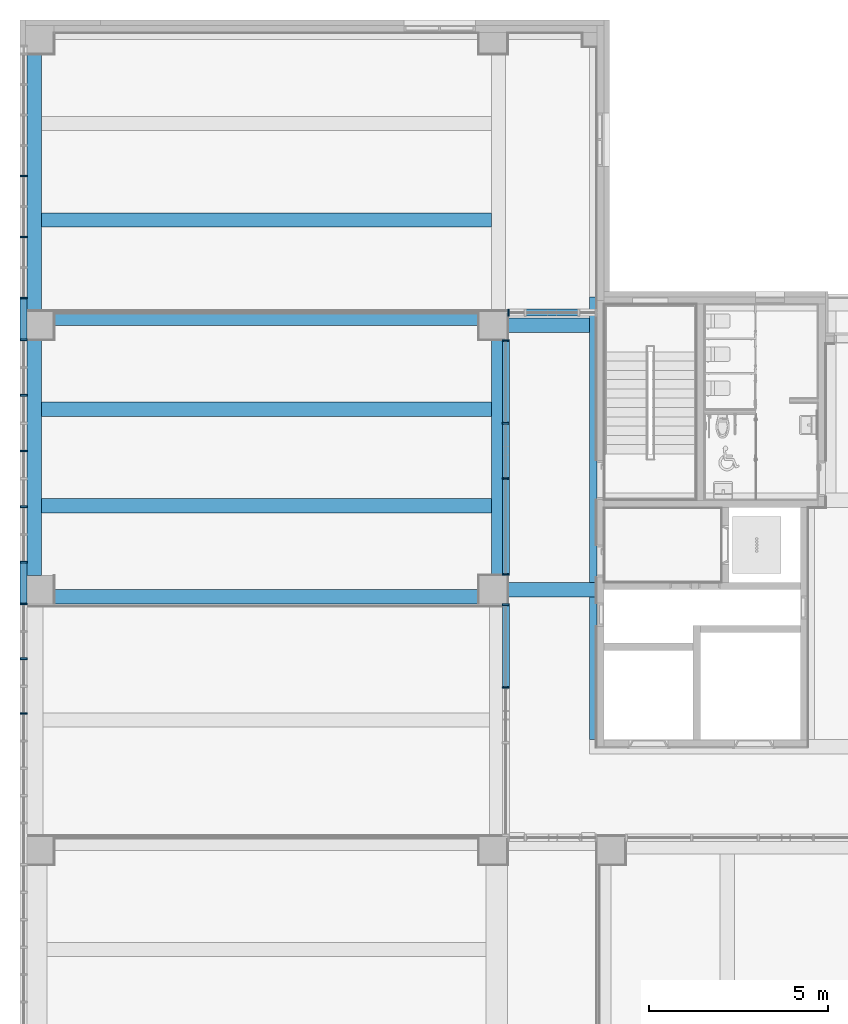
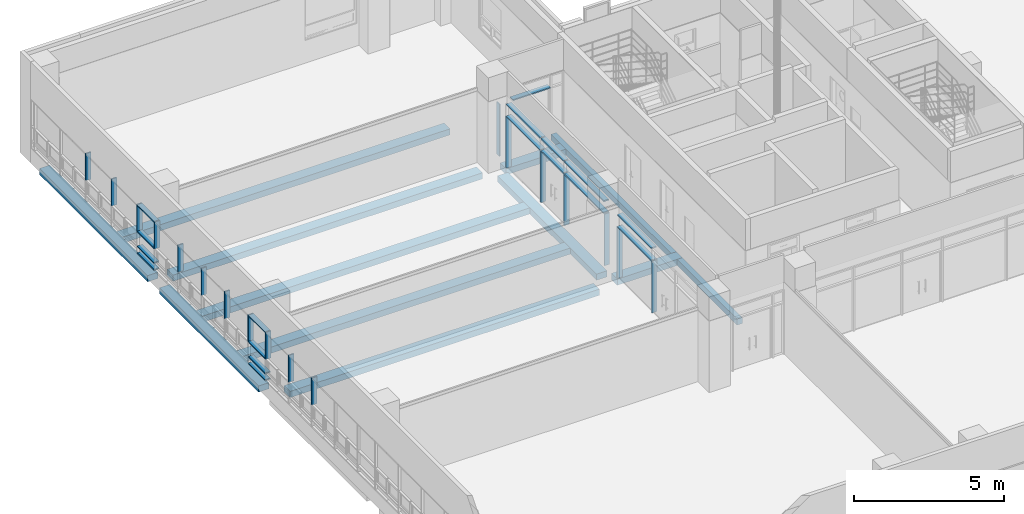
# One storey, part 5 of 82: 35 members, 12 beams, 4 elements without a shape of their own.
"""IFC2X3 building model written with IfcOpenShell, lengths in millimetres."""

from ifc_helpers import new_model, entity, si_unit, converted_unit, derived_unit, direction, frame, frame_2d, origin, origin_2d_with_axis, place, context, subcontext, project, spatial, rectangle, extrude, source, transform, mapped, material, material_list, type_object, type_shapes, element, aggregate, save


model = new_model("IFC2X3")

# Units and contexts
model_context = context("Model", 3, precision=0.01, world=origin(), true_north=direction((6.123031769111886e-17, 1.0)))
body_context = subcontext(model_context, "Body", "Model", "MODEL_VIEW")
ifc_project = project(units=[si_unit("LENGTHUNIT", "METRE", prefix="MILLI"), si_unit("AREAUNIT", "SQUARE_METRE"), si_unit("VOLUMEUNIT", "CUBIC_METRE"), converted_unit("PLANEANGLEUNIT", "DEGREE", entity("IfcRatioMeasure", 0.017453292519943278), si_unit("PLANEANGLEUNIT", "RADIAN"), dimensions=[0, 0, 0, 0, 0, 0, 0]), si_unit("MASSUNIT", "GRAM", prefix="KILO"), derived_unit("MASSDENSITYUNIT", [(si_unit("MASSUNIT", "GRAM", prefix="KILO"), 1), (si_unit("LENGTHUNIT", "METRE"), -3)]), derived_unit("MOMENTOFINERTIAUNIT", [(si_unit("LENGTHUNIT", "METRE"), 4)]), si_unit("TIMEUNIT", "SECOND"), si_unit("FREQUENCYUNIT", "HERTZ"), si_unit("THERMODYNAMICTEMPERATUREUNIT", "DEGREE_CELSIUS"), derived_unit("THERMALTRANSMITTANCEUNIT", [(si_unit("MASSUNIT", "GRAM", prefix="KILO"), 1), (si_unit("THERMODYNAMICTEMPERATUREUNIT", "KELVIN"), -1), (si_unit("TIMEUNIT", "SECOND"), -3)]), derived_unit("VOLUMETRICFLOWRATEUNIT", [(si_unit("LENGTHUNIT", "METRE"), 3), (si_unit("TIMEUNIT", "SECOND"), -1)]), derived_unit("MASSFLOWRATEUNIT", [(si_unit("MASSUNIT", "GRAM", prefix="KILO"), 1), (si_unit("TIMEUNIT", "SECOND"), -1)]), derived_unit("ROTATIONALFREQUENCYUNIT", [(si_unit("TIMEUNIT", "SECOND"), -1)]), si_unit("ELECTRICCURRENTUNIT", "AMPERE"), si_unit("ELECTRICVOLTAGEUNIT", "VOLT"), si_unit("POWERUNIT", "WATT"), si_unit("FORCEUNIT", "NEWTON", prefix="KILO"), si_unit("ILLUMINANCEUNIT", "LUX"), si_unit("LUMINOUSFLUXUNIT", "LUMEN"), si_unit("LUMINOUSINTENSITYUNIT", "CANDELA"), derived_unit("USERDEFINED", [(si_unit("MASSUNIT", "GRAM", prefix="KILO"), -1), (si_unit("LENGTHUNIT", "METRE"), -2), (si_unit("TIMEUNIT", "SECOND"), 3), (si_unit("LUMINOUSFLUXUNIT", "LUMEN"), 1)]), derived_unit("SOUNDPOWERUNIT", [(si_unit("MASSUNIT", "GRAM", prefix="KILO"), 1), (si_unit("LENGTHUNIT", "METRE"), 2), (si_unit("TIMEUNIT", "SECOND"), -3)]), derived_unit("SOUNDPRESSUREUNIT", [(si_unit("MASSUNIT", "GRAM", prefix="KILO"), 1), (si_unit("LENGTHUNIT", "METRE"), -1), (si_unit("TIMEUNIT", "SECOND"), -2)]), derived_unit("LINEARVELOCITYUNIT", [(si_unit("LENGTHUNIT", "METRE"), 1), (si_unit("TIMEUNIT", "SECOND"), -1)]), si_unit("PRESSUREUNIT", "PASCAL"), derived_unit("USERDEFINED", [(si_unit("LENGTHUNIT", "METRE"), -2), (si_unit("MASSUNIT", "GRAM", prefix="KILO"), 1), (si_unit("TIMEUNIT", "SECOND"), -2)]), derived_unit("LINEARFORCEUNIT", [(si_unit("MASSUNIT", "GRAM", prefix="KILO"), 1), (si_unit("LENGTHUNIT", "METRE"), 1), (si_unit("TIMEUNIT", "SECOND"), -2), (si_unit("LENGTHUNIT", "METRE"), -1)]), derived_unit("PLANARFORCEUNIT", [(si_unit("MASSUNIT", "GRAM", prefix="KILO"), 1), (si_unit("LENGTHUNIT", "METRE"), 1), (si_unit("TIMEUNIT", "SECOND"), -2), (si_unit("LENGTHUNIT", "METRE"), -2)])], contexts=[model_context])

# Site, building, storey
site_placement = place(None, frame((-14167.972527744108, -657.2125860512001, 0.0)))
site = spatial("IfcSite", under=ifc_project, at=site_placement, Name="Default", CompositionType="ELEMENT")
building_placement = place(site_placement, origin())
building = spatial("IfcBuilding", under=site, at=building_placement, Name="Sample Building", CompositionType="ELEMENT")
storey_placement = place(building_placement, frame((0.0, 0.0, 17500.0)))
storey = spatial("IfcBuildingStorey", under=building, at=storey_placement, Name="지상 5층", CompositionType="ELEMENT", Elevation=17500.00000000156)

# Curtain wall, member
curtain_wall_type = type_object("IfcCurtainWallType", Name="커튼월:CW112-스테인리스 스틸 커튼월", PredefinedType="NOTDEFINED")
curtain_wall_1_placement = place(storey_placement, frame((0.0, 0.0, -17500.0)))
curtain_wall_1 = element("IfcCurtainWall", 1, at=curtain_wall_1_placement, inside=storey, type_object=curtain_wall_type, Name="커튼월:CW112-스테인리스 스틸 커튼월", ObjectType="커튼월:CW112-스테인리스 스틸 커튼월")
ifc_material_1 = material(Name="<Unnamed>")
member_type_1 = type_object("IfcMemberType", Name="직사각형 멀리언:CW200-직사각형 멀리언 50x200mm", PredefinedType="MULLION", material=ifc_material_1)
shared_shape_1 = source(origin(), body_context, "Body", "SweptSolid", [
    extrude(rectangle(XDim=200.0, YDim=50.0, at=origin_2d_with_axis()), frame((-25.0, 0.0, -2100.0), z_axis=(0.0, 0.0, 1.0), x_axis=(0.0, -1.0, 0.0)), (0.0, 0.0, 1.0), 2100.0),
])
type_shapes(member_type_1, [shared_shape_1])
member_1_placement = place(curtain_wall_1_placement, frame((27567.96376153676, 27712.21230799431, 17580.0), z_axis=(0.0, 0.0, -1.0), x_axis=(-1.0, 0.0, 0.0)))
member_1 = element("IfcMember", 2, at=member_1_placement, type_object=member_type_1, material=ifc_material_1, Name="직사각형 멀리언:CW200-직사각형 멀리언 50x200mm", ObjectType="직사각형 멀리언:CW200-직사각형 멀리언 50x200mm", context=body_context, shape_type="MappedRepresentation", body=[
    mapped(shared_shape_1, transform((0.0, 0.0, 0.0), scale=1.0)),
])

curtain_wall_2_placement = place(storey_placement, frame((0.0, 0.0, -17500.0)))
curtain_wall_2 = element("IfcCurtainWall", 3, at=curtain_wall_2_placement, inside=storey, type_object=curtain_wall_type, Name="커튼월:CW112-스테인리스 스틸 커튼월", ObjectType="커튼월:CW112-스테인리스 스틸 커튼월")
member_2_placement = place(curtain_wall_2_placement, frame((27522.97249113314, 20357.212307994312, 17580.0), z_axis=(0.0, 0.0, -1.0), x_axis=(0.0, -1.0, 0.0)))
member_2 = element("IfcMember", 4, at=member_2_placement, type_object=member_type_1, material=ifc_material_1, Name="직사각형 멀리언:CW200-직사각형 멀리언 50x200mm", ObjectType="직사각형 멀리언:CW200-직사각형 멀리언 50x200mm", context=body_context, shape_type="MappedRepresentation", body=[
    mapped(shared_shape_1, transform((0.0, 0.0, 0.0), scale=1.0)),
])

# Member
member_type_2 = type_object("IfcMemberType", Name="직사각형 멀리언:CW200-직사각형 멀리언 50x200mm", PredefinedType="MULLION", material=ifc_material_1)
shared_shape_2 = source(origin(), body_context, "Body", "SweptSolid", [
    extrude(rectangle(XDim=200.0, YDim=50.0, at=origin_2d_with_axis()), frame((0.0, 0.0, -1450.0), z_axis=(0.0, 0.0, 1.0), x_axis=(0.0, -1.0, 0.0)), (0.0, 0.0, 1.0), 1450.000000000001),
])
type_shapes(member_type_2, [shared_shape_2])
member_3_placement = place(curtain_wall_1_placement, frame((28091.12581445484, 27712.21230799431, 19680.0), z_axis=(-1.0, 0.0, 0.0), x_axis=(0.0, 0.0, 1.0)))
member_3 = element("IfcMember", 5, at=member_3_placement, type_object=member_type_2, material=ifc_material_1, Name="직사각형 멀리언:CW200-직사각형 멀리언 50x200mm", ObjectType="직사각형 멀리언:CW200-직사각형 멀리언 50x200mm", context=body_context, shape_type="MappedRepresentation", body=[
    mapped(shared_shape_2, transform((0.0, 0.0, 0.0), scale=1.0)),
])

aggregate(curtain_wall_1, [member_1, member_3])

# Curtain wall, members
curtain_wall_3_placement = place(storey_placement, frame((0.0, 0.0, -17500.0)))
curtain_wall_3 = element("IfcCurtainWall", 6, at=curtain_wall_3_placement, inside=storey, type_object=curtain_wall_type, Name="커튼월:CW112-스테인리스 스틸 커튼월", ObjectType="커튼월:CW112-스테인리스 스틸 커튼월")
member_type_3 = type_object("IfcMemberType", Name="직사각형 멀리언:CW200-직사각형 멀리언 50x200mm", PredefinedType="MULLION", material=ifc_material_1)
shared_shape_3 = source(origin(), body_context, "Body", "SweptSolid", [
    extrude(rectangle(XDim=200.0, YDim=50.0, at=origin_2d_with_axis()), frame((-25.0, 0.0, -1120.0), z_axis=(0.0, 0.0, 1.0), x_axis=(0.0, -1.0, 0.0)), (0.0, 0.0, 1.0), 1120.0000000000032),
])
type_shapes(member_type_3, [shared_shape_3])
member_4_placement = place(curtain_wall_3_placement, frame((14017.339654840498, 26980.81770709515, 20100.0), z_axis=(0.0, -1.0, 0.0), x_axis=(0.0, 0.0, 1.0)))
member_4 = element("IfcMember", 7, at=member_4_placement, type_object=member_type_3, material=ifc_material_1, Name="직사각형 멀리언:CW200-직사각형 멀리언 50x200mm", ObjectType="직사각형 멀리언:CW200-직사각형 멀리언 50x200mm", context=body_context, shape_type="MappedRepresentation", body=[
    mapped(shared_shape_3, transform((0.0, 0.0, 0.0), scale=1.0)),
])
member_5_placement = place(curtain_wall_3_placement, frame((14017.339654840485, 19578.817707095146, 20100.0), z_axis=(0.0, -1.0, 0.0), x_axis=(0.0, 0.0, 1.0)))
member_5 = element("IfcMember", 8, at=member_5_placement, type_object=member_type_3, material=ifc_material_1, Name="직사각형 멀리언:CW200-직사각형 멀리언 50x200mm", ObjectType="직사각형 멀리언:CW200-직사각형 멀리언 50x200mm", context=body_context, shape_type="MappedRepresentation", body=[
    mapped(shared_shape_3, transform((0.0, 0.0, 0.0), scale=1.0)),
])

# Member
member_type_4 = type_object("IfcMemberType", Name="직사각형 멀리언:CW200-직사각형 멀리언 50x200mm", PredefinedType="MULLION", material=ifc_material_1)
shared_shape_4 = source(origin(), body_context, "Body", "SweptSolid", [
    extrude(rectangle(XDim=200.0, YDim=50.0, at=origin_2d_with_axis()), frame((-25.0, 0.0, -1500.0), z_axis=(0.0, 0.0, 1.0), x_axis=(0.0, -1.0, 0.0)), (0.0, 0.0, 1.0), 1500.0000000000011),
])
type_shapes(member_type_4, [shared_shape_4])
member_6_placement = place(curtain_wall_2_placement, frame((27522.972491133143, 23092.21230799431, 20200.0), z_axis=(0.0, -1.0, 0.0), x_axis=(0.0, 0.0, 1.0)))
member_6 = element("IfcMember", 9, at=member_6_placement, type_object=member_type_4, material=ifc_material_1, Name="직사각형 멀리언:CW200-직사각형 멀리언 50x200mm", ObjectType="직사각형 멀리언:CW200-직사각형 멀리언 50x200mm", context=body_context, shape_type="MappedRepresentation", body=[
    mapped(shared_shape_4, transform((0.0, 0.0, 0.0), scale=1.0)),
])

# Curtain wall, member
curtain_wall_4_placement = place(storey_placement, frame((0.0, 0.0, -17500.0)))
curtain_wall_4 = element("IfcCurtainWall", 10, at=curtain_wall_4_placement, inside=storey, type_object=curtain_wall_type, Name="커튼월:CW112-스테인리스 스틸 커튼월", ObjectType="커튼월:CW112-스테인리스 스틸 커튼월")
member_type_5 = type_object("IfcMemberType", Name="직사각형 멀리언:CW200-직사각형 멀리언 50x200mm", PredefinedType="MULLION", material=ifc_material_1)
shared_shape_5 = source(origin(), body_context, "Body", "SweptSolid", [
    extrude(rectangle(XDim=200.0, YDim=50.0, at=origin_2d_with_axis()), frame((-25.0, 0.0, -2100.0), z_axis=(0.0, 0.0, 1.0), x_axis=(0.0, -1.0, 0.0)), (0.0, 0.0, 1.0), 2099.9999999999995),
])
type_shapes(member_type_5, [shared_shape_5])
member_7_placement = place(curtain_wall_4_placement, frame((27522.920421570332, 19557.21230798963, 19680.0), z_axis=(0.0, 0.0, 1.0), x_axis=(0.0, 1.0, 0.0)))
member_7 = element("IfcMember", 11, at=member_7_placement, type_object=member_type_5, material=ifc_material_1, Name="직사각형 멀리언:CW200-직사각형 멀리언 50x200mm", ObjectType="직사각형 멀리언:CW200-직사각형 멀리언 50x200mm", context=body_context, shape_type="MappedRepresentation", body=[
    mapped(shared_shape_5, transform((0.0, 0.0, 0.0), scale=1.0)),
])

# Member
member_8_placement = place(curtain_wall_2_placement, frame((27522.972491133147, 26957.21230799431, 19680.0), z_axis=(0.0, 0.0, 1.0), x_axis=(0.0, 1.0, 0.0)))
member_8 = element("IfcMember", 12, at=member_8_placement, type_object=member_type_5, material=ifc_material_1, Name="직사각형 멀리언:CW200-직사각형 멀리언 50x200mm", ObjectType="직사각형 멀리언:CW200-직사각형 멀리언 50x200mm", context=body_context, shape_type="MappedRepresentation", body=[
    mapped(shared_shape_5, transform((0.0, 0.0, 0.0), scale=1.0)),
])

member_type_6 = type_object("IfcMemberType", Name="직사각형 멀리언:CW200-직사각형 멀리언 50x200mm", PredefinedType="MULLION", material=ifc_material_1)
shared_shape_6 = source(origin(), body_context, "Body", "SweptSolid", [
    extrude(rectangle(XDim=200.0, YDim=50.0, at=origin_2d_with_axis()), frame((0.0, 0.0, -1500.0), z_axis=(0.0, 0.0, 1.0), x_axis=(0.0, -1.0, 0.0)), (0.0, 0.0, 1.0), 1500.0000000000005),
])
type_shapes(member_type_6, [shared_shape_6])
member_9_placement = place(curtain_wall_2_placement, frame((27522.972491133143, 23092.21230799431, 19680.0), z_axis=(0.0, -1.0, 0.0), x_axis=(0.0, 0.0, 1.0)))
member_9 = element("IfcMember", 13, at=member_9_placement, type_object=member_type_6, material=ifc_material_1, Name="직사각형 멀리언:CW200-직사각형 멀리언 50x200mm", ObjectType="직사각형 멀리언:CW200-직사각형 멀리언 50x200mm", context=body_context, shape_type="MappedRepresentation", body=[
    mapped(shared_shape_6, transform((0.0, 0.0, 0.0), scale=1.0)),
])

member_type_7 = type_object("IfcMemberType", Name="직사각형 멀리언:CW200-직사각형 멀리언 50x200mm", PredefinedType="MULLION", material=ifc_material_1)
shared_shape_7 = source(origin(), body_context, "Body", "SweptSolid", [
    extrude(rectangle(XDim=200.0, YDim=50.0, at=origin_2d_with_axis()), frame((-25.0, 0.0, -1120.0), z_axis=(0.0, 0.0, 1.0), x_axis=(0.0, -1.0, 0.0)), (0.0, 0.0, 1.0), 1120.0000000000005),
])
type_shapes(member_type_7, [shared_shape_7])
member_10_placement = place(curtain_wall_3_placement, frame((14017.339654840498, 28100.81770709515, 18100.0), z_axis=(0.0, 1.0, 0.0), x_axis=(0.0, 0.0, -1.0)))
member_10 = element("IfcMember", 14, at=member_10_placement, type_object=member_type_7, material=ifc_material_1, Name="직사각형 멀리언:CW200-직사각형 멀리언 50x200mm", ObjectType="직사각형 멀리언:CW200-직사각형 멀리언 50x200mm", context=body_context, shape_type="MappedRepresentation", body=[
    mapped(shared_shape_7, transform((0.0, 0.0, 0.0), scale=1.0)),
])

member_11_placement = place(curtain_wall_3_placement, frame((14017.339654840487, 20698.81770709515, 18100.0), z_axis=(0.0, 1.0, 0.0), x_axis=(0.0, 0.0, -1.0)))
member_11 = element("IfcMember", 15, at=member_11_placement, type_object=member_type_7, material=ifc_material_1, Name="직사각형 멀리언:CW200-직사각형 멀리언 50x200mm", ObjectType="직사각형 멀리언:CW200-직사각형 멀리언 50x200mm", context=body_context, shape_type="MappedRepresentation", body=[
    mapped(shared_shape_7, transform((0.0, 0.0, 0.0), scale=1.0)),
])

member_type_8 = type_object("IfcMemberType", Name="직사각형 멀리언:CW200-직사각형 멀리언 50x200mm", PredefinedType="MULLION", material=ifc_material_1)
shared_shape_8 = source(origin(), body_context, "Body", "SweptSolid", [
    extrude(rectangle(XDim=200.0, YDim=50.0, at=origin_2d_with_axis()), frame((0.0, 0.0, -1120.0), z_axis=(0.0, 0.0, 1.0), x_axis=(0.0, -1.0, 0.0)), (0.0, 0.0, 1.0), 1120.0000000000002),
])
type_shapes(member_type_8, [shared_shape_8])
member_12_placement = place(curtain_wall_3_placement, frame((14017.339654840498, 26980.81770709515, 18400.0), z_axis=(0.0, -1.0, 0.0), x_axis=(0.0, 0.0, 1.0)))
member_12 = element("IfcMember", 16, at=member_12_placement, type_object=member_type_8, material=ifc_material_1, Name="직사각형 멀리언:CW200-직사각형 멀리언 50x200mm", ObjectType="직사각형 멀리언:CW200-직사각형 멀리언 50x200mm", context=body_context, shape_type="MappedRepresentation", body=[
    mapped(shared_shape_8, transform((0.0, 0.0, 0.0), scale=1.0)),
])

member_13_placement = place(curtain_wall_3_placement, frame((14017.339654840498, 26980.81770709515, 19000.0), z_axis=(0.0, -1.0, 0.0), x_axis=(0.0, 0.0, 1.0)))
member_13 = element("IfcMember", 17, at=member_13_placement, type_object=member_type_8, material=ifc_material_1, Name="직사각형 멀리언:CW200-직사각형 멀리언 50x200mm", ObjectType="직사각형 멀리언:CW200-직사각형 멀리언 50x200mm", context=body_context, shape_type="MappedRepresentation", body=[
    mapped(shared_shape_8, transform((0.0, 0.0, 0.0), scale=1.0)),
])

member_14_placement = place(curtain_wall_3_placement, frame((14017.339654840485, 19578.817707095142, 18400.0), z_axis=(0.0, -1.0, 0.0), x_axis=(0.0, 0.0, 1.0)))
member_14 = element("IfcMember", 18, at=member_14_placement, type_object=member_type_8, material=ifc_material_1, Name="직사각형 멀리언:CW200-직사각형 멀리언 50x200mm", ObjectType="직사각형 멀리언:CW200-직사각형 멀리언 50x200mm", context=body_context, shape_type="MappedRepresentation", body=[
    mapped(shared_shape_8, transform((0.0, 0.0, 0.0), scale=1.0)),
])

member_15_placement = place(curtain_wall_3_placement, frame((14017.339654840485, 19578.817707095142, 19000.0), z_axis=(0.0, -1.0, 0.0), x_axis=(0.0, 0.0, 1.0)))
member_15 = element("IfcMember", 19, at=member_15_placement, type_object=member_type_8, material=ifc_material_1, Name="직사각형 멀리언:CW200-직사각형 멀리언 50x200mm", ObjectType="직사각형 멀리언:CW200-직사각형 멀리언 50x200mm", context=body_context, shape_type="MappedRepresentation", body=[
    mapped(shared_shape_8, transform((0.0, 0.0, 0.0), scale=1.0)),
])

member_type_9 = type_object("IfcMemberType", Name="직사각형 멀리언:CW200-직사각형 멀리언 50x200mm", PredefinedType="MULLION", material=ifc_material_1)
shared_shape_9 = source(origin(), body_context, "Body", "SweptSolid", [
    extrude(rectangle(XDim=200.0, YDim=50.0, at=origin_2d_with_axis()), frame((0.0, 0.0, -2100.0), z_axis=(0.0, 0.0, 1.0), x_axis=(0.0, -1.0, 0.0)), (0.0, 0.0, 1.0), 2100.0),
])
type_shapes(member_type_9, [shared_shape_9])
member_16_placement = place(curtain_wall_4_placement, frame((27522.92042157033, 17217.17762439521, 17580.0), z_axis=(0.0, 0.0, -1.0), x_axis=(0.0, -1.0, 0.0)))
member_16 = element("IfcMember", 20, at=member_16_placement, type_object=member_type_9, material=ifc_material_1, Name="직사각형 멀리언:CW200-직사각형 멀리언 50x200mm", ObjectType="직사각형 멀리언:CW200-직사각형 멀리언 50x200mm", context=body_context, shape_type="MappedRepresentation", body=[
    mapped(shared_shape_9, transform((0.0, 0.0, 0.0), scale=1.0)),
])

member_17_placement = place(curtain_wall_2_placement, frame((27522.972491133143, 23067.212307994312, 17580.0), z_axis=(0.0, 0.0, -1.0), x_axis=(0.0, -1.0, 0.0)))
member_17 = element("IfcMember", 21, at=member_17_placement, type_object=member_type_9, material=ifc_material_1, Name="직사각형 멀리언:CW200-직사각형 멀리언 50x200mm", ObjectType="직사각형 멀리언:CW200-직사각형 멀리언 50x200mm", context=body_context, shape_type="MappedRepresentation", body=[
    mapped(shared_shape_9, transform((0.0, 0.0, 0.0), scale=1.0)),
])

member_18_placement = place(curtain_wall_2_placement, frame((27522.972491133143, 24617.21230799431, 17580.0), z_axis=(0.0, 0.0, -1.0), x_axis=(0.0, -1.0, 0.0)))
member_18 = element("IfcMember", 22, at=member_18_placement, type_object=member_type_9, material=ifc_material_1, Name="직사각형 멀리언:CW200-직사각형 멀리언 50x200mm", ObjectType="직사각형 멀리언:CW200-직사각형 멀리언 50x200mm", context=body_context, shape_type="MappedRepresentation", body=[
    mapped(shared_shape_9, transform((0.0, 0.0, 0.0), scale=1.0)),
])

member_type_10 = type_object("IfcMemberType", Name="직사각형 멀리언:CW200-직사각형 멀리언 50x200mm", PredefinedType="MULLION", material=ifc_material_1)
shared_shape_10 = source(origin(), body_context, "Body", "SweptSolid", [
    extrude(rectangle(XDim=200.0, YDim=50.0, at=origin_2d_with_axis()), frame((-25.0, 0.0, -2635.0), z_axis=(0.0, 0.0, 1.0), x_axis=(0.0, -1.0, 0.0)), (0.0, 0.0, 1.0), 2635.000000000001),
])
type_shapes(member_type_10, [shared_shape_10])
member_19_placement = place(curtain_wall_2_placement, frame((27522.97249113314, 20407.212307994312, 20200.0), z_axis=(0.0, -1.0, 0.0), x_axis=(0.0, 0.0, 1.0)))
member_19 = element("IfcMember", 23, at=member_19_placement, type_object=member_type_10, material=ifc_material_1, Name="직사각형 멀리언:CW200-직사각형 멀리언 50x200mm", ObjectType="직사각형 멀리언:CW200-직사각형 멀리언 50x200mm", context=body_context, shape_type="MappedRepresentation", body=[
    mapped(shared_shape_10, transform((0.0, 0.0, 0.0), scale=1.0)),
])

member_type_11 = type_object("IfcMemberType", Name="직사각형 멀리언:CW200-직사각형 멀리언 50x200mm", PredefinedType="MULLION", material=ifc_material_1)
shared_shape_11 = source(origin(), body_context, "Body", "SweptSolid", [
    extrude(rectangle(XDim=200.0, YDim=50.0, at=origin_2d_with_axis()), frame((-25.0, 0.0, -2265.0), z_axis=(0.0, 0.0, 1.0), x_axis=(0.0, -1.0, 0.0)), (0.0, 0.0, 1.0), 2265.0000000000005),
])
type_shapes(member_type_11, [shared_shape_11])
member_20_placement = place(curtain_wall_4_placement, frame((27522.92042157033, 17242.17762439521, 20200.0), z_axis=(0.0, -1.0, 0.0), x_axis=(0.0, 0.0, 1.0)))
member_20 = element("IfcMember", 24, at=member_20_placement, type_object=member_type_11, material=ifc_material_1, Name="직사각형 멀리언:CW200-직사각형 멀리언 50x200mm", ObjectType="직사각형 멀리언:CW200-직사각형 멀리언 50x200mm", context=body_context, shape_type="MappedRepresentation", body=[
    mapped(shared_shape_11, transform((0.0, 0.0, 0.0), scale=1.0)),
])

member_21_placement = place(curtain_wall_2_placement, frame((27522.972491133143, 24642.21230799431, 20200.0), z_axis=(0.0, -1.0, 0.0), x_axis=(0.0, 0.0, 1.0)))
member_21 = element("IfcMember", 25, at=member_21_placement, type_object=member_type_11, material=ifc_material_1, Name="직사각형 멀리언:CW200-직사각형 멀리언 50x200mm", ObjectType="직사각형 멀리언:CW200-직사각형 멀리언 50x200mm", context=body_context, shape_type="MappedRepresentation", body=[
    mapped(shared_shape_11, transform((0.0, 0.0, 0.0), scale=1.0)),
])

member_type_12 = type_object("IfcMemberType", Name="직사각형 멀리언:CW200-직사각형 멀리언 50x200mm", PredefinedType="MULLION", material=ifc_material_1)
shared_shape_12 = source(origin(), body_context, "Body", "SweptSolid", [
    extrude(rectangle(XDim=200.0, YDim=50.0, at=origin_2d_with_axis()), frame((0.0, 0.0, -2265.0), z_axis=(0.0, 0.0, 1.0), x_axis=(0.0, -1.0, 0.0)), (0.0, 0.0, 1.0), 2265.000000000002),
])
type_shapes(member_type_12, [shared_shape_12])
member_22_placement = place(curtain_wall_4_placement, frame((27522.92042157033, 17242.17762439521, 19680.0), z_axis=(0.0, -1.0, 0.0), x_axis=(0.0, 0.0, 1.0)))
member_22 = element("IfcMember", 26, at=member_22_placement, type_object=member_type_12, material=ifc_material_1, Name="직사각형 멀리언:CW200-직사각형 멀리언 50x200mm", ObjectType="직사각형 멀리언:CW200-직사각형 멀리언 50x200mm", context=body_context, shape_type="MappedRepresentation", body=[
    mapped(shared_shape_12, transform((0.0, 0.0, 0.0), scale=1.0)),
])

aggregate(curtain_wall_4, [member_20, member_16, member_7, member_22])

member_23_placement = place(curtain_wall_2_placement, frame((27522.972491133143, 24642.21230799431, 19680.0), z_axis=(0.0, -1.0, 0.0), x_axis=(0.0, 0.0, 1.0)))
member_23 = element("IfcMember", 27, at=member_23_placement, type_object=member_type_12, material=ifc_material_1, Name="직사각형 멀리언:CW200-직사각형 멀리언 50x200mm", ObjectType="직사각형 멀리언:CW200-직사각형 멀리언 50x200mm", context=body_context, shape_type="MappedRepresentation", body=[
    mapped(shared_shape_12, transform((0.0, 0.0, 0.0), scale=1.0)),
])

member_type_13 = type_object("IfcMemberType", Name="직사각형 멀리언:CW200-직사각형 멀리언 50x200mm", PredefinedType="MULLION", material=ifc_material_1)
shared_shape_13 = source(origin(), body_context, "Body", "SweptSolid", [
    extrude(rectangle(XDim=200.0, YDim=50.0, at=origin_2d_with_axis()), frame((0.0, 0.0, -2635.0), z_axis=(0.0, 0.0, 1.0), x_axis=(0.0, -1.0, 0.0)), (0.0, 0.0, 1.0), 2635.0),
])
type_shapes(member_type_13, [shared_shape_13])
member_24_placement = place(curtain_wall_2_placement, frame((27522.97249113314, 20407.212307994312, 19680.0), z_axis=(0.0, -1.0, 0.0), x_axis=(0.0, 0.0, 1.0)))
member_24 = element("IfcMember", 28, at=member_24_placement, type_object=member_type_13, material=ifc_material_1, Name="직사각형 멀리언:CW200-직사각형 멀리언 50x200mm", ObjectType="직사각형 멀리언:CW200-직사각형 멀리언 50x200mm", context=body_context, shape_type="MappedRepresentation", body=[
    mapped(shared_shape_13, transform((0.0, 0.0, 0.0), scale=1.0)),
])

aggregate(curtain_wall_2, [member_19, member_2, member_6, member_17, member_21, member_18, member_8, member_23, member_9, member_24])

member_type_14 = type_object("IfcMemberType", Name="직사각형 멀리언:CW200-직사각형 멀리언 50x200mm", PredefinedType="MULLION", material=ifc_material_1)
shared_shape_14 = source(origin(), body_context, "Body", "SweptSolid", [
    extrude(rectangle(XDim=200.0, YDim=50.0, at=origin_2d_with_axis()), frame((0.0, 0.0, -1100.0), z_axis=(0.0, 0.0, 1.0), x_axis=(0.0, -1.0, 0.0)), (0.0, 0.0, 1.0), 1100.0000000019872),
])
type_shapes(member_type_14, [shared_shape_14])
member_25_placement = place(curtain_wall_3_placement, frame((14017.339654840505, 31539.817707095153, 19000.0), z_axis=(0.0, 0.0, -1.0), x_axis=(0.0, -1.0, 0.0)))
member_25 = element("IfcMember", 29, at=member_25_placement, type_object=member_type_14, material=ifc_material_1, Name="직사각형 멀리언:CW200-직사각형 멀리언 50x200mm", ObjectType="직사각형 멀리언:CW200-직사각형 멀리언 50x200mm", context=body_context, shape_type="MappedRepresentation", body=[
    mapped(shared_shape_14, transform((0.0, 0.0, 0.0), scale=1.0)),
])

member_26_placement = place(curtain_wall_3_placement, frame((14017.339654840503, 29832.81770709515, 19000.0), z_axis=(0.0, 0.0, -1.0), x_axis=(0.0, -1.0, 0.0)))
member_26 = element("IfcMember", 30, at=member_26_placement, type_object=member_type_14, material=ifc_material_1, Name="직사각형 멀리언:CW200-직사각형 멀리언 50x200mm", ObjectType="직사각형 멀리언:CW200-직사각형 멀리언 50x200mm", context=body_context, shape_type="MappedRepresentation", body=[
    mapped(shared_shape_14, transform((0.0, 0.0, 0.0), scale=1.0)),
])

member_27_placement = place(curtain_wall_3_placement, frame((14017.339654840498, 28125.81770709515, 19000.0), z_axis=(0.0, 0.0, -1.0), x_axis=(0.0, -1.0, 0.0)))
member_27 = element("IfcMember", 31, at=member_27_placement, type_object=member_type_14, material=ifc_material_1, Name="직사각형 멀리언:CW200-직사각형 멀리언 50x200mm", ObjectType="직사각형 멀리언:CW200-직사각형 멀리언 50x200mm", context=body_context, shape_type="MappedRepresentation", body=[
    mapped(shared_shape_14, transform((0.0, 0.0, 0.0), scale=1.0)),
])

member_28_placement = place(curtain_wall_3_placement, frame((14017.339654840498, 26955.81770709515, 19000.0), z_axis=(0.0, 0.0, -1.0), x_axis=(0.0, -1.0, 0.0)))
member_28 = element("IfcMember", 32, at=member_28_placement, type_object=member_type_14, material=ifc_material_1, Name="직사각형 멀리언:CW200-직사각형 멀리언 50x200mm", ObjectType="직사각형 멀리언:CW200-직사각형 멀리언 50x200mm", context=body_context, shape_type="MappedRepresentation", body=[
    mapped(shared_shape_14, transform((0.0, 0.0, 0.0), scale=1.0)),
])

member_29_placement = place(curtain_wall_3_placement, frame((14017.339654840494, 25397.81770709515, 19000.0), z_axis=(0.0, 0.0, -1.0), x_axis=(0.0, -1.0, 0.0)))
member_29 = element("IfcMember", 33, at=member_29_placement, type_object=member_type_14, material=ifc_material_1, Name="직사각형 멀리언:CW200-직사각형 멀리언 50x200mm", ObjectType="직사각형 멀리언:CW200-직사각형 멀리언 50x200mm", context=body_context, shape_type="MappedRepresentation", body=[
    mapped(shared_shape_14, transform((0.0, 0.0, 0.0), scale=1.0)),
])

member_30_placement = place(curtain_wall_3_placement, frame((14017.339654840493, 23839.81770709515, 19000.0), z_axis=(0.0, 0.0, -1.0), x_axis=(0.0, -1.0, 0.0)))
member_30 = element("IfcMember", 34, at=member_30_placement, type_object=member_type_14, material=ifc_material_1, Name="직사각형 멀리언:CW200-직사각형 멀리언 50x200mm", ObjectType="직사각형 멀리언:CW200-직사각형 멀리언 50x200mm", context=body_context, shape_type="MappedRepresentation", body=[
    mapped(shared_shape_14, transform((0.0, 0.0, 0.0), scale=1.0)),
])

member_31_placement = place(curtain_wall_3_placement, frame((14017.33965484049, 22281.81770709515, 19000.0), z_axis=(0.0, 0.0, -1.0), x_axis=(0.0, -1.0, 0.0)))
member_31 = element("IfcMember", 35, at=member_31_placement, type_object=member_type_14, material=ifc_material_1, Name="직사각형 멀리언:CW200-직사각형 멀리언 50x200mm", ObjectType="직사각형 멀리언:CW200-직사각형 멀리언 50x200mm", context=body_context, shape_type="MappedRepresentation", body=[
    mapped(shared_shape_14, transform((0.0, 0.0, 0.0), scale=1.0)),
])

member_32_placement = place(curtain_wall_3_placement, frame((14017.339654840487, 20723.817707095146, 19000.0), z_axis=(0.0, 0.0, -1.0), x_axis=(0.0, -1.0, 0.0)))
member_32 = element("IfcMember", 36, at=member_32_placement, type_object=member_type_14, material=ifc_material_1, Name="직사각형 멀리언:CW200-직사각형 멀리언 50x200mm", ObjectType="직사각형 멀리언:CW200-직사각형 멀리언 50x200mm", context=body_context, shape_type="MappedRepresentation", body=[
    mapped(shared_shape_14, transform((0.0, 0.0, 0.0), scale=1.0)),
])

member_33_placement = place(curtain_wall_3_placement, frame((14017.339654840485, 19553.81770709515, 19000.0), z_axis=(0.0, 0.0, -1.0), x_axis=(0.0, -1.0, 0.0)))
member_33 = element("IfcMember", 37, at=member_33_placement, type_object=member_type_14, material=ifc_material_1, Name="직사각형 멀리언:CW200-직사각형 멀리언 50x200mm", ObjectType="직사각형 멀리언:CW200-직사각형 멀리언 50x200mm", context=body_context, shape_type="MappedRepresentation", body=[
    mapped(shared_shape_14, transform((0.0, 0.0, 0.0), scale=1.0)),
])

member_34_placement = place(curtain_wall_3_placement, frame((14017.339654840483, 18020.81770709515, 19000.0), z_axis=(0.0, 0.0, -1.0), x_axis=(0.0, -1.0, 0.0)))
member_34 = element("IfcMember", 38, at=member_34_placement, type_object=member_type_14, material=ifc_material_1, Name="직사각형 멀리언:CW200-직사각형 멀리언 50x200mm", ObjectType="직사각형 멀리언:CW200-직사각형 멀리언 50x200mm", context=body_context, shape_type="MappedRepresentation", body=[
    mapped(shared_shape_14, transform((0.0, 0.0, 0.0), scale=1.0)),
])

member_35_placement = place(curtain_wall_3_placement, frame((14017.339654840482, 16487.81770709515, 19000.0), z_axis=(0.0, 0.0, -1.0), x_axis=(0.0, -1.0, 0.0)))
member_35 = element("IfcMember", 39, at=member_35_placement, type_object=member_type_14, material=ifc_material_1, Name="직사각형 멀리언:CW200-직사각형 멀리언 50x200mm", ObjectType="직사각형 멀리언:CW200-직사각형 멀리언 50x200mm", context=body_context, shape_type="MappedRepresentation", body=[
    mapped(shared_shape_14, transform((0.0, 0.0, 0.0), scale=1.0)),
])

aggregate(curtain_wall_3, [member_25, member_26, member_10, member_12, member_13, member_27, member_4, member_28, member_29, member_30, member_31, member_11, member_14, member_15, member_32, member_5, member_33, member_34, member_35])

# Beams
ifc_material_2 = material(Name="KBIMS-콘크리트")
beam_type_1 = type_object("IfcBeamType", Name="BM111-철근콘크리트구조 보:BM110-철근 콘크리트구조 보_400 x 400_2-10G7", PredefinedType="NOTDEFINED")
beam_1_placement = place(storey_placement, frame((27117.955141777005, 19757.2124789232, 0.0), z_axis=(0.0, 0.0, 1.0), x_axis=(-1.0, 0.0, 0.0)))
element("IfcBeam", 40, at=beam_1_placement, inside=storey, type_object=beam_type_1, material=ifc_material_2, Name="BM111-철근콘크리트구조 보:BM110-철근 콘크리트구조 보_400 x 400_2-10G7", ObjectType="BM111-철근콘크리트구조 보:BM110-철근 콘크리트구조 보_400 x 400_2-10G7", context=body_context, shape_type="SweptSolid", body=[
    extrude(rectangle(XDim=250.00000000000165, YDim=400.0000000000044, at=frame_2d((-1.0800249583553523e-12, 0.0), x_axis=(1.0, 0.0))), frame((350.0, 0.0, -275.0), z_axis=(1.0, 0.0, 0.0), x_axis=(0.0, 0.0, -1.0)), (0.0, 0.0, 1.0), 11900.000036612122),
])
beam_2_placement = place(storey_placement, frame((27318.061800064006, 27557.212617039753, 0.0), z_axis=(0.0, 0.0, 1.0), x_axis=(-1.0, 0.0, 0.0)))
element("IfcBeam", 41, at=beam_2_placement, inside=storey, type_object=beam_type_1, material=ifc_material_2, Name="BM111-철근콘크리트구조 보:BM110-철근 콘크리트구조 보_400 x 400_2-10G7", ObjectType="BM111-철근콘크리트구조 보:BM110-철근 콘크리트구조 보_400 x 400_2-10G7", context=body_context, shape_type="SweptSolid", body=[
    extrude(rectangle(XDim=250.00000000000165, YDim=400.0000000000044, at=frame_2d((-1.0800249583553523e-12, 0.0), x_axis=(1.0, 0.0))), frame((550.1066582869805, 0.0, -275.0), z_axis=(1.0, 0.0, 0.0), x_axis=(0.0, 0.0, -1.0)), (0.0, 0.0, 1.0), 11900.000036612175),
])
beam_type_2 = type_object("IfcBeamType", Name="BM111-철근콘크리트구조 보:BM110-철근 콘크리트구조 보_400 x 400_2-10B3", PredefinedType="NOTDEFINED")
beam_3_placement = place(storey_placement, frame((27318.061800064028, 22307.21237354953, 0.0), z_axis=(0.0, 0.0, 1.0), x_axis=(-1.0, 0.0, 0.0)))
element("IfcBeam", 42, at=beam_3_placement, inside=storey, type_object=beam_type_2, material=ifc_material_2, Name="BM111-철근콘크리트구조 보:BM110-철근 콘크리트구조 보_400 x 400_2-10B3", ObjectType="BM111-철근콘크리트구조 보:BM110-철근 콘크리트구조 보_400 x 400_2-10B3", context=body_context, shape_type="SweptSolid", body=[
    extrude(rectangle(XDim=250.00000000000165, YDim=400.0000000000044, at=frame_2d((-1.0800249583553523e-12, 0.0), x_axis=(1.0, 0.0))), frame((200.0, 0.0, -275.0), z_axis=(1.0, 0.0, 0.0), x_axis=(0.0, 0.0, -1.0)), (0.0, 0.0, 1.0), 12600.106578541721),
])
beam_4_placement = place(storey_placement, frame((27318.06180006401, 25007.212373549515, 0.0), z_axis=(0.0, 0.0, 1.0), x_axis=(-1.0, 0.0, 0.0)))
element("IfcBeam", 43, at=beam_4_placement, inside=storey, type_object=beam_type_2, material=ifc_material_2, Name="BM111-철근콘크리트구조 보:BM110-철근 콘크리트구조 보_400 x 400_2-10B3", ObjectType="BM111-철근콘크리트구조 보:BM110-철근 콘크리트구조 보_400 x 400_2-10B3", context=body_context, shape_type="SweptSolid", body=[
    extrude(rectangle(XDim=250.00000000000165, YDim=400.0000000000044, at=frame_2d((-1.0800249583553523e-12, 0.0), x_axis=(1.0, 0.0))), frame((200.0, 0.0, -275.0), z_axis=(1.0, 0.0, 0.0), x_axis=(0.0, 0.0, -1.0)), (0.0, 0.0, 1.0), 12600.106578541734),
])
beam_5_placement = place(storey_placement, frame((27318.061800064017, 30307.21247892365, 0.0), z_axis=(0.0, 0.0, 1.0), x_axis=(-1.0, 0.0, 0.0)))
element("IfcBeam", 44, at=beam_5_placement, inside=storey, type_object=beam_type_2, material=ifc_material_2, Name="BM111-철근콘크리트구조 보:BM110-철근 콘크리트구조 보_400 x 400_2-10B3", ObjectType="BM111-철근콘크리트구조 보:BM110-철근 콘크리트구조 보_400 x 400_2-10B3", context=body_context, shape_type="SweptSolid", body=[
    extrude(rectangle(XDim=250.00000000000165, YDim=400.0000000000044, at=frame_2d((-1.0800249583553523e-12, 0.0), x_axis=(1.0, 0.0))), frame((200.0, 0.0, -275.0), z_axis=(1.0, 0.0, 0.0), x_axis=(0.0, 0.0, -1.0)), (0.0, 0.0, 1.0), 12600.106578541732),
])
beam_type_3 = type_object("IfcBeamType", Name="BM111-철근콘크리트구조 보:BM110-철근 콘크리트구조 보_400 x 400_2-10G3", PredefinedType="NOTDEFINED")
beam_6_placement = place(storey_placement, frame((27318.061800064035, 19957.212617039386, 0.0)))
element("IfcBeam", 45, at=beam_6_placement, inside=storey, type_object=beam_type_3, material=ifc_material_2, Name="BM111-철근콘크리트구조 보:BM110-철근 콘크리트구조 보_400 x 400_2-10G3", ObjectType="BM111-철근콘크리트구조 보:BM110-철근 콘크리트구조 보_400 x 400_2-10G3", context=body_context, shape_type="SweptSolid", body=[
    extrude(rectangle(XDim=250.00000000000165, YDim=400.0000000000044, at=frame_2d((-1.0800249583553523e-12, 0.0), x_axis=(1.0, 0.0))), frame((249.8933417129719, 0.0, -275.0), z_axis=(1.0, 0.0, 0.0), x_axis=(0.0, 0.0, -1.0)), (0.0, 0.0, 1.0), 2500.0086197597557),
])
beam_7_placement = place(storey_placement, frame((27318.061800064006, 27357.212478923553, 0.0)))
element("IfcBeam", 46, at=beam_7_placement, inside=storey, type_object=beam_type_3, material=ifc_material_2, Name="BM111-철근콘크리트구조 보:BM110-철근 콘크리트구조 보_400 x 400_2-10G3", ObjectType="BM111-철근콘크리트구조 보:BM110-철근 콘크리트구조 보_400 x 400_2-10G3", context=body_context, shape_type="SweptSolid", body=[
    extrude(rectangle(XDim=250.00000000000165, YDim=400.0000000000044, at=frame_2d((-1.0800249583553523e-12, 0.0), x_axis=(1.0, 0.0))), frame((249.89334171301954, 0.0, -275.0), z_axis=(1.0, 0.0, 0.0), x_axis=(0.0, 0.0, -1.0)), (0.0, 0.0, 1.0), 2299.991307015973),
])
beam_type_4 = type_object("IfcBeamType", Name="BM111-철근콘크리트구조 보:BM110-철근 콘크리트구조 보_400 x 400_2-10G10", PredefinedType="NOTDEFINED")
beam_8_placement = place(storey_placement, frame((14317.955221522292, 27557.21261704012, 0.0), z_axis=(0.0, 0.0, 1.0), x_axis=(0.0, -1.0, 0.0)))
element("IfcBeam", 47, at=beam_8_placement, inside=storey, type_object=beam_type_4, material=ifc_material_2, Name="BM111-철근콘크리트구조 보:BM110-철근 콘크리트구조 보_400 x 400_2-10G10", ObjectType="BM111-철근콘크리트구조 보:BM110-철근 콘크리트구조 보_400 x 400_2-10G10", context=body_context, shape_type="SweptSolid", body=[
    extrude(rectangle(XDim=250.00000000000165, YDim=400.00000000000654, at=frame_2d((-1.0800249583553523e-12, -1.0800249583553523e-12), x_axis=(1.0, 0.0))), frame((600.0, 0.0, -275.0), z_axis=(1.0, 0.0, 0.0), x_axis=(0.0, 0.0, -1.0)), (0.0, 0.0, 1.0), 6600.0000000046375),
])
beam_9_placement = place(storey_placement, frame((27318.061800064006, 27357.212478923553, 0.0), z_axis=(0.0, 0.0, 1.0), x_axis=(0.0, -1.0, 0.0)))
element("IfcBeam", 48, at=beam_9_placement, inside=storey, type_object=beam_type_4, material=ifc_material_2, Name="BM111-철근콘크리트구조 보:BM110-철근 콘크리트구조 보_400 x 400_2-10G10", ObjectType="BM111-철근콘크리트구조 보:BM110-철근 콘크리트구조 보_400 x 400_2-10G10", context=body_context, shape_type="SweptSolid", body=[
    extrude(rectangle(XDim=250.00000000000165, YDim=399.9999999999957, at=frame_2d((-1.0871303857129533e-12, 6.494360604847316e-12), x_axis=(1.0, 0.0))), frame((399.99986187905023, 0.0, -275.0), z_axis=(1.0, 0.0, 0.0), x_axis=(0.0, 0.0, -1.0)), (0.0, 0.0, 1.0), 6600.000000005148),
])
beam_10_placement = place(storey_placement, frame((14317.95522152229, 27157.21261704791, 0.0), z_axis=(0.0, 0.0, 1.0), x_axis=(0.0, 1.0, 0.0)))
element("IfcBeam", 49, at=beam_10_placement, inside=storey, type_object=beam_type_4, material=ifc_material_2, Name="BM111-철근콘크리트구조 보:BM110-철근 콘크리트구조 보_400 x 400_2-10G10", ObjectType="BM111-철근콘크리트구조 보:BM110-철근 콘크리트구조 보_400 x 400_2-10G10", context=body_context, shape_type="SweptSolid", body=[
    extrude(rectangle(XDim=250.00000000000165, YDim=400.0000000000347, at=frame_2d((-1.0800249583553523e-12, -2.3817392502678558e-11), x_axis=(1.0, 0.0))), frame((600.0, 0.0, -275.0), z_axis=(1.0, 0.0, 0.0), x_axis=(0.0, 0.0, -1.0)), (0.0, 0.0, 1.0), 7199.999972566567),
])
ifc_material_list = material_list([ifc_material_2, ifc_material_2, ifc_material_2])
beam_type_5 = type_object("IfcBeamType", Name="BM111-철근콘크리트구조 보:BM110-철근 콘크리트구조 보_400 x 400_2-10WG1", PredefinedType="BEAM", material=ifc_material_list)
beam_11_placement = place(storey_placement, frame((30067.94644879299, 15557.212604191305, 0.0), z_axis=(0.0, 0.0, 1.0), x_axis=(0.0, 1.0, 0.0)))
element("IfcBeam", 50, at=beam_11_placement, inside=storey, type_object=beam_type_5, material=ifc_material_2, Name="BM111-철근콘크리트구조 보:BM110-철근 콘크리트구조 보_400 x 400_2-10WG1", ObjectType="BM111-철근콘크리트구조 보:BM110-철근 콘크리트구조 보_400 x 400_2-10WG1", context=body_context, shape_type="SweptSolid", body=[
    extrude(rectangle(XDim=250.00000000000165, YDim=200.01731274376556, at=frame_2d((-1.0800249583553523e-12, -4.334310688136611e-12), x_axis=(1.0, 0.0))), frame((200.0, 99.99134362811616, -275.0), z_axis=(1.0, 0.0, 0.0), x_axis=(0.0, 0.0, -1.0)), (0.0, 0.0, 1.0), 4000.0000128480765),
])
beam_12_placement = place(storey_placement, frame((30067.946448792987, 28157.212604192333, 0.0), z_axis=(0.0, 0.0, 1.0), x_axis=(0.0, -1.0, 0.0)))
element("IfcBeam", 51, at=beam_12_placement, inside=storey, type_object=beam_type_5, material=ifc_material_2, Name="BM111-철근콘크리트구조 보:BM110-철근 콘크리트구조 보_400 x 400_2-10WG1", ObjectType="BM111-철근콘크리트구조 보:BM110-철근 콘크리트구조 보_400 x 400_2-10WG1", context=body_context, shape_type="SweptSolid", body=[
    extrude(rectangle(XDim=250.00000000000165, YDim=200.01731274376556, at=frame_2d((-1.0800249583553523e-12, 2.1671553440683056e-12), x_axis=(1.0, 0.0))), frame((0.0, -99.99134362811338, -275.0), z_axis=(1.0, 0.0, 0.0), x_axis=(0.0, 0.0, -1.0)), (0.0, 0.0, 1.0), 7999.999987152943),
])

save(model, "model.ifc")
